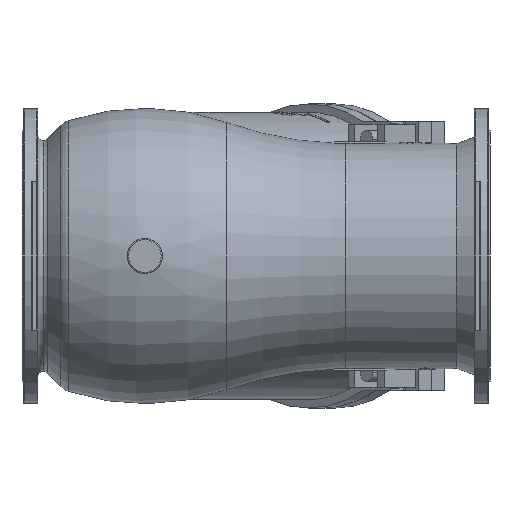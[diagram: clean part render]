
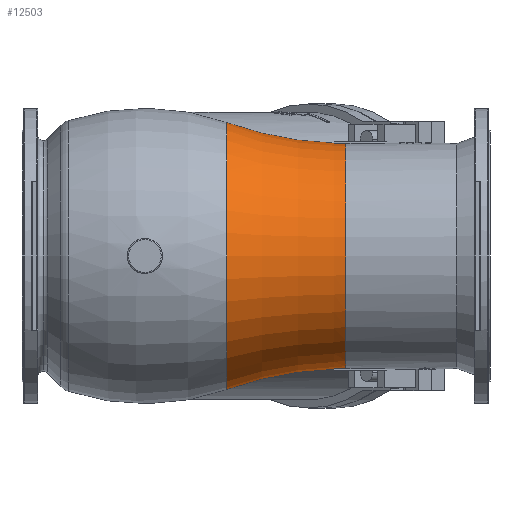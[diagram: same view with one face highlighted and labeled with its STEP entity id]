
A CAD part, front view. The second image highlights one B-rep face of the part: STEP entity #12503.
In plain terms, the highlighted toroidal (fillet/blend) face has major radius 792.5 mm and minor radius 600 mm.
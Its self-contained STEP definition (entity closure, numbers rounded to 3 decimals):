
#12133 = VERTEX_POINT ( 'NONE', #35541 ) ;
#12171 = VERTEX_POINT ( 'NONE', #35576 ) ;
#12172 = ORIENTED_EDGE ( 'NONE', *, *, #12174, .F. ) ;
#12174 = EDGE_CURVE ( 'NONE', #12176, #12171, #35695, .T. ) ;
#12176 = VERTEX_POINT ( 'NONE', #35762 ) ;
#12178 = ORIENTED_EDGE ( 'NONE', *, *, #12179, .T. ) ;
#12179 = EDGE_CURVE ( 'NONE', #12176, #12180, #35761, .T. ) ;
#12180 = VERTEX_POINT ( 'NONE', #35756 ) ;
#12181 = ORIENTED_EDGE ( 'NONE', *, *, #12732, .F. ) ;
#12503 = ADVANCED_FACE ( 'NONE', ( #35975 ), #35973, .F. ) ;
#12507 = EDGE_LOOP ( 'NONE', ( #12509, #12513, #12603, #12172, #12178, #12181, #12941, #12776 ) ) ;
#12509 = ORIENTED_EDGE ( 'NONE', *, *, #12511, .F. ) ;
#12511 = EDGE_CURVE ( 'NONE', #12581, #12133, #35974, .T. ) ;
#12513 = ORIENTED_EDGE ( 'NONE', *, *, #12515, .T. ) ;
#12515 = EDGE_CURVE ( 'NONE', #12581, #12517, #35964, .T. ) ;
#12517 = VERTEX_POINT ( 'NONE', #35959 ) ;
#12581 = VERTEX_POINT ( 'NONE', #36038 ) ;
#12603 = ORIENTED_EDGE ( 'NONE', *, *, #12605, .F. ) ;
#12605 = EDGE_CURVE ( 'NONE', #12171, #12517, #36078, .T. ) ;
#12732 = EDGE_CURVE ( 'NONE', #12937, #12180, #16068, .T. ) ;
#12776 = ORIENTED_EDGE ( 'NONE', *, *, #13071, .F. ) ;
#12937 = VERTEX_POINT ( 'NONE', #29907 ) ;
#12941 = ORIENTED_EDGE ( 'NONE', *, *, #13054, .F. ) ;
#13054 = EDGE_CURVE ( 'NONE', #13069, #12937, #30452, .T. ) ;
#13069 = VERTEX_POINT ( 'NONE', #30469 ) ;
#13071 = EDGE_CURVE ( 'NONE', #12133, #13069, #30464, .T. ) ;
#16060 = CARTESIAN_POINT ( 'NONE',  ( 153.5, -7.5, 192.354 ) ) ;
#16061 = CARTESIAN_POINT ( 'NONE',  ( 150.17, -7.5, 192.354 ) ) ;
#16062 = CARTESIAN_POINT ( 'NONE',  ( 146.836, -7.5, 192.382 ) ) ;
#16063 = CARTESIAN_POINT ( 'NONE',  ( 140.162, -7.5, 192.493 ) ) ;
#16064 = CARTESIAN_POINT ( 'NONE',  ( 136.829, -7.5, 192.576 ) ) ;
#16065 = CARTESIAN_POINT ( 'NONE',  ( 133.5, -7.5, 192.688 ) ) ;
#16068 = B_SPLINE_CURVE_WITH_KNOTS ( 'NONE', 3,
 ( #16065, #16064, #16063, #16062, #16061, #16060 ),
 .UNSPECIFIED., .F., .F.,
 ( 4, 2, 4 ),
 ( 3.746, 3.756, 3.765 ),
 .UNSPECIFIED. ) ;
#29907 = CARTESIAN_POINT ( 'NONE',  ( 133.5, -7.5, 192.688 ) ) ;
#30446 = DIRECTION ( 'NONE',  ( 0., 0., 1. ) ) ;
#30447 = DIRECTION ( 'NONE',  ( 1., 0., 0. ) ) ;
#30449 = CARTESIAN_POINT ( 'NONE',  ( 133.5, 0., 0. ) ) ;
#30451 = AXIS2_PLACEMENT_3D ( 'NONE', #30449, #30447, #30446 ) ;
#30452 = CIRCLE ( 'NONE', #30451, 192.833 ) ;
#30462 = CARTESIAN_POINT ( 'NONE',  ( 153.5, 0., 792.5 ) ) ;
#30463 = AXIS2_PLACEMENT_3D ( 'NONE', #30462, #30671, #30668 ) ;
#30464 = CIRCLE ( 'NONE', #30463, 600. ) ;
#30469 = CARTESIAN_POINT ( 'NONE',  ( 133.5, 0., 192.833 ) ) ;
#30668 = DIRECTION ( 'NONE',  ( 0., 0., -1. ) ) ;
#30671 = DIRECTION ( 'NONE',  ( 0., -1., 0. ) ) ;
#34678 = CARTESIAN_POINT ( 'NONE',  ( 153.5, -7.5, -192.354 ) ) ;
#34690 = CARTESIAN_POINT ( 'NONE',  ( 150.168, -7.5, -192.354 ) ) ;
#34757 = CARTESIAN_POINT ( 'NONE',  ( 133.5, -7.5, -192.688 ) ) ;
#34770 = CARTESIAN_POINT ( 'NONE',  ( 136.827, -7.5, -192.576 ) ) ;
#34800 = CARTESIAN_POINT ( 'NONE',  ( 140.158, -7.5, -192.493 ) ) ;
#34802 = CARTESIAN_POINT ( 'NONE',  ( 146.832, -7.5, -192.382 ) ) ;
#35541 = CARTESIAN_POINT ( 'NONE',  ( -49.896, 0., 228.027 ) ) ;
#35576 = CARTESIAN_POINT ( 'NONE',  ( 133.5, -7.5, -192.688 ) ) ;
#35695 = B_SPLINE_CURVE_WITH_KNOTS ( 'NONE', 3,
 ( #34678, #34690, #34802, #34800, #34770, #34757 ),
 .UNSPECIFIED., .F., .F.,
 ( 4, 2, 4 ),
 ( 3.747, 3.757, 3.767 ),
 .UNSPECIFIED. ) ;
#35756 = CARTESIAN_POINT ( 'NONE',  ( 153.5, -7.5, 192.354 ) ) ;
#35757 = DIRECTION ( 'NONE',  ( 0., 0., 1. ) ) ;
#35758 = DIRECTION ( 'NONE',  ( -1., 0., 0. ) ) ;
#35759 = CARTESIAN_POINT ( 'NONE',  ( 153.5, 0., 0. ) ) ;
#35760 = AXIS2_PLACEMENT_3D ( 'NONE', #35759, #35758, #35757 ) ;
#35761 = CIRCLE ( 'NONE', #35760, 192.5 ) ;
#35762 = CARTESIAN_POINT ( 'NONE',  ( 153.5, -7.5, -192.354 ) ) ;
#35959 = CARTESIAN_POINT ( 'NONE',  ( 133.5, 0., -192.833 ) ) ;
#35960 = DIRECTION ( 'NONE',  ( 0., 0., 1. ) ) ;
#35961 = DIRECTION ( 'NONE',  ( 0., 1., 0. ) ) ;
#35962 = CARTESIAN_POINT ( 'NONE',  ( 153.5, 0., -792.5 ) ) ;
#35963 = AXIS2_PLACEMENT_3D ( 'NONE', #35962, #35961, #35960 ) ;
#35964 = CIRCLE ( 'NONE', #35963, 600. ) ;
#35965 = DIRECTION ( 'NONE',  ( 0., 0., 1. ) ) ;
#35966 = DIRECTION ( 'NONE',  ( -1., 0., 0. ) ) ;
#35967 = CARTESIAN_POINT ( 'NONE',  ( -49.896, 0., 0. ) ) ;
#35968 = AXIS2_PLACEMENT_3D ( 'NONE', #35967, #35966, #35965 ) ;
#35969 = DIRECTION ( 'NONE',  ( 0., 0., 1. ) ) ;
#35970 = DIRECTION ( 'NONE',  ( -1., 0., 0. ) ) ;
#35971 = CARTESIAN_POINT ( 'NONE',  ( 153.5, 0., 0. ) ) ;
#35972 = AXIS2_PLACEMENT_3D ( 'NONE', #35971, #35970, #35969 ) ;
#35973 = TOROIDAL_SURFACE ( 'NONE', #35972, 792.5, 600. ) ;
#35974 = CIRCLE ( 'NONE', #35968, 228.027 ) ;
#35975 = FACE_OUTER_BOUND ( 'NONE', #12507, .T. ) ;
#36038 = CARTESIAN_POINT ( 'NONE',  ( -49.896, 0., -228.027 ) ) ;
#36074 = DIRECTION ( 'NONE',  ( 0., 0., 1. ) ) ;
#36075 = DIRECTION ( 'NONE',  ( 1., 0., 0. ) ) ;
#36076 = CARTESIAN_POINT ( 'NONE',  ( 133.5, 0., 0. ) ) ;
#36077 = AXIS2_PLACEMENT_3D ( 'NONE', #36076, #36075, #36074 ) ;
#36078 = CIRCLE ( 'NONE', #36077, 192.833 ) ;
